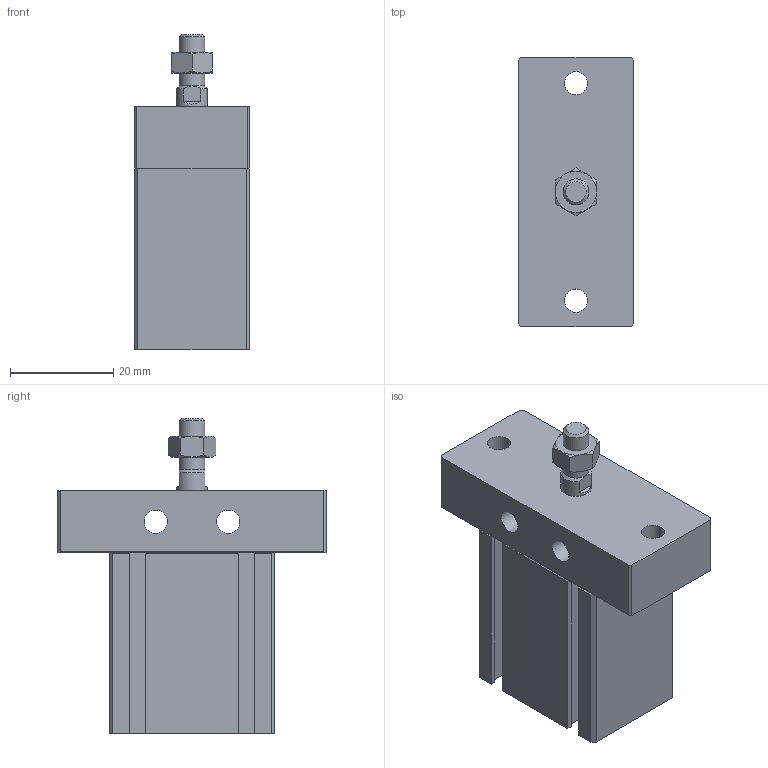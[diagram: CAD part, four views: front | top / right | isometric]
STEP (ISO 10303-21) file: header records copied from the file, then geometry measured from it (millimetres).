
FILE_DESCRIPTION((''),'2;1');
FILE_NAME('J:\3D電子目錄\氣缸\ND\ND\ND16-FB\ND16x10-FB.stp','2008-03-12T17:04:04',('66-2f-008'),(''),'Autodesk Inventor 11','Autodesk Inventor 11','');
FILE_SCHEMA(('AUTOMOTIVE_DESIGN { 1 0 10303 214 1 1 1 1 }'));
Length unit declared in the file: millimetre
Products named in the file (1): ND16-FB
Bounding box: 22.4 x 52 x 61 mm (x, y, z)
Volume: 33989.9 mm3; surface area: 11675.5 mm2
Topology: 2 solids, 2 shells, 130 faces, 310 edges, 195 vertices
Faces by surface type: plane 83, cone 22, bspline 14, cylinder 10, torus 1
Full cylindrical faces by diameter (mm): 1.5 x2, 4.5 x2, 5 x2, 6 x1, 10 x1, 18 x1, 19 x1
Entity records: 3636 total; most frequent: CARTESIAN_POINT 833, ORIENTED_EDGE 550, DIRECTION 542, EDGE_CURVE 275, VERTEX_POINT 189, VECTOR 186, LINE 186, AXIS2_PLACEMENT_3D 178
